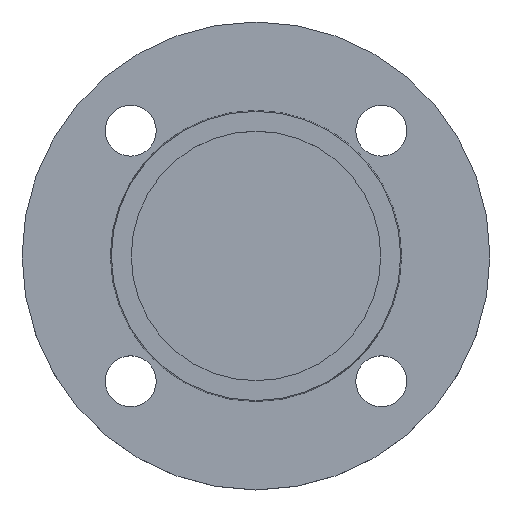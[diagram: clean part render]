
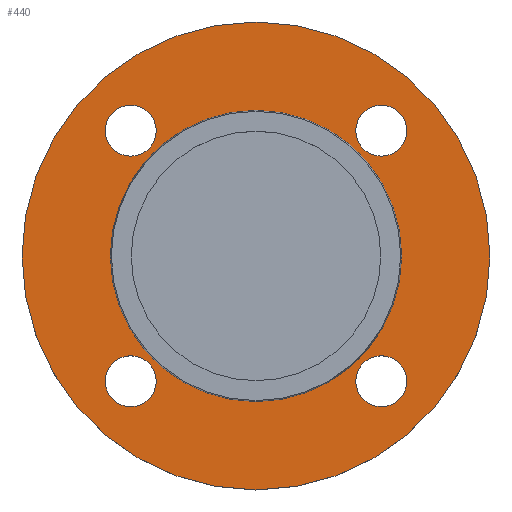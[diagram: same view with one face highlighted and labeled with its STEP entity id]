
A CAD part, top view. The second image highlights one B-rep face of the part: STEP entity #440.
In plain terms, the highlighted planar face has unit normal (0, 0, 1).
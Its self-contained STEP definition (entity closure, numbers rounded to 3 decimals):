
#5 = FACE_BOUND ( 'NONE', #10, .T. ) ;
#9 = EDGE_LOOP ( 'NONE', ( #136, #140 ) ) ;
#10 = EDGE_LOOP ( 'NONE', ( #141, #153 ) ) ;
#11 = CIRCLE ( 'NONE', #44, 82.5 ) ;
#14 = EDGE_LOOP ( 'NONE', ( #155, #160 ) ) ;
#17 = EDGE_LOOP ( 'NONE', ( #159, #270 ) ) ;
#19 = DIRECTION ( 'NONE',  ( 1., 0., 0. ) ) ;
#25 = DIRECTION ( 'NONE',  ( 0., 0., 1. ) ) ;
#33 = CIRCLE ( 'NONE', #578, 9. ) ;
#37 = EDGE_LOOP ( 'NONE', ( #131, #134 ) ) ;
#41 = VERTEX_POINT ( 'NONE', #532 ) ;
#44 = AXIS2_PLACEMENT_3D ( 'NONE', #525, #524, #523 ) ;
#56 = CARTESIAN_POINT ( 'NONE',  ( -35.194, -44.194, -2. ) ) ;
#86 = CARTESIAN_POINT ( 'NONE',  ( -53.194, 44.194, -2. ) ) ;
#88 = CARTESIAN_POINT ( 'NONE',  ( -82.5, 0., -2. ) ) ;
#89 = CARTESIAN_POINT ( 'NONE',  ( 0., 0., -2. ) ) ;
#90 = DIRECTION ( 'NONE',  ( 0., 0., -1. ) ) ;
#91 = DIRECTION ( 'NONE',  ( -1., 0., 0. ) ) ;
#95 = EDGE_CURVE ( 'NONE', #247, #319, #11, .T. ) ;
#96 = AXIS2_PLACEMENT_3D ( 'NONE', #377, #378, #379 ) ;
#109 = AXIS2_PLACEMENT_3D ( 'NONE', #516, #514, #512 ) ;
#113 = CIRCLE ( 'NONE', #502, 9. ) ;
#114 = CIRCLE ( 'NONE', #116, 9. ) ;
#115 = EDGE_LOOP ( 'NONE', ( #163, #164 ) ) ;
#116 = AXIS2_PLACEMENT_3D ( 'NONE', #508, #507, #506 ) ;
#131 = ORIENTED_EDGE ( 'NONE', *, *, #196, .T. ) ;
#134 = ORIENTED_EDGE ( 'NONE', *, *, #427, .T. ) ;
#135 = CIRCLE ( 'NONE', #142, 9. ) ;
#136 = ORIENTED_EDGE ( 'NONE', *, *, #407, .T. ) ;
#140 = ORIENTED_EDGE ( 'NONE', *, *, #313, .T. ) ;
#141 = ORIENTED_EDGE ( 'NONE', *, *, #587, .T. ) ;
#142 = AXIS2_PLACEMENT_3D ( 'NONE', #496, #495, #494 ) ;
#144 = EDGE_CURVE ( 'NONE', #207, #557, #334, .T. ) ;
#146 = AXIS2_PLACEMENT_3D ( 'NONE', #414, #415, #417 ) ;
#153 = ORIENTED_EDGE ( 'NONE', *, *, #347, .T. ) ;
#155 = ORIENTED_EDGE ( 'NONE', *, *, #144, .T. ) ;
#159 = ORIENTED_EDGE ( 'NONE', *, *, #586, .T. ) ;
#160 = ORIENTED_EDGE ( 'NONE', *, *, #161, .T. ) ;
#161 = EDGE_CURVE ( 'NONE', #557, #207, #114, .T. ) ;
#163 = ORIENTED_EDGE ( 'NONE', *, *, #248, .F. ) ;
#164 = ORIENTED_EDGE ( 'NONE', *, *, #95, .F. ) ;
#169 = FACE_OUTER_BOUND ( 'NONE', #115, .T. ) ;
#176 = FACE_BOUND ( 'NONE', #14, .T. ) ;
#179 = CIRCLE ( 'NONE', #589, 51.353 ) ;
#180 = FACE_BOUND ( 'NONE', #17, .T. ) ;
#182 = CARTESIAN_POINT ( 'NONE',  ( -35.194, 44.194, -2. ) ) ;
#183 = CARTESIAN_POINT ( 'NONE',  ( 51.353, 0., -2. ) ) ;
#185 = CIRCLE ( 'NONE', #190, 82.5 ) ;
#186 = CARTESIAN_POINT ( 'NONE',  ( 35.194, -44.194, -2. ) ) ;
#190 = AXIS2_PLACEMENT_3D ( 'NONE', #89, #90, #91 ) ;
#193 = PLANE ( 'NONE',  #580 ) ;
#196 = EDGE_CURVE ( 'NONE', #307, #266, #135, .T. ) ;
#207 = VERTEX_POINT ( 'NONE', #483 ) ;
#220 = CARTESIAN_POINT ( 'NONE',  ( 0., 0., -2. ) ) ;
#222 = DIRECTION ( 'NONE',  ( 0., 0., -1. ) ) ;
#223 = VERTEX_POINT ( 'NONE', #56 ) ;
#225 = AXIS2_PLACEMENT_3D ( 'NONE', #220, #222, #228 ) ;
#228 = DIRECTION ( 'NONE',  ( -1., 0., 0. ) ) ;
#234 = CIRCLE ( 'NONE', #574, 9. ) ;
#236 = VERTEX_POINT ( 'NONE', #86 ) ;
#246 = CARTESIAN_POINT ( 'NONE',  ( 53.194, -44.194, -2. ) ) ;
#247 = VERTEX_POINT ( 'NONE', #88 ) ;
#248 = EDGE_CURVE ( 'NONE', #319, #247, #185, .T. ) ;
#261 = VERTEX_POINT ( 'NONE', #182 ) ;
#262 = CARTESIAN_POINT ( 'NONE',  ( 35.194, 44.194, -2. ) ) ;
#263 = VERTEX_POINT ( 'NONE', #183 ) ;
#266 = VERTEX_POINT ( 'NONE', #186 ) ;
#270 = ORIENTED_EDGE ( 'NONE', *, *, #510, .T. ) ;
#307 = VERTEX_POINT ( 'NONE', #246 ) ;
#308 = CARTESIAN_POINT ( 'NONE',  ( 0., 0., -2. ) ) ;
#309 = DIRECTION ( 'NONE',  ( 0., 0., -1. ) ) ;
#310 = DIRECTION ( 'NONE',  ( -1., 0., 0. ) ) ;
#311 = CARTESIAN_POINT ( 'NONE',  ( -44.194, 44.194, -2. ) ) ;
#313 = EDGE_CURVE ( 'NONE', #317, #223, #234, .T. ) ;
#314 = DIRECTION ( 'NONE',  ( 0., 0., -1. ) ) ;
#316 = DIRECTION ( 'NONE',  ( 1., 0., 0. ) ) ;
#317 = VERTEX_POINT ( 'NONE', #360 ) ;
#319 = VERTEX_POINT ( 'NONE', #363 ) ;
#334 = CIRCLE ( 'NONE', #109, 9. ) ;
#347 = EDGE_CURVE ( 'NONE', #236, #261, #592, .T. ) ;
#356 = CARTESIAN_POINT ( 'NONE',  ( -44.194, -44.194, -2. ) ) ;
#359 = DIRECTION ( 'NONE',  ( 1., 0., 0. ) ) ;
#360 = CARTESIAN_POINT ( 'NONE',  ( -53.194, -44.194, -2. ) ) ;
#363 = CARTESIAN_POINT ( 'NONE',  ( 82.5, 0., -2. ) ) ;
#366 = DIRECTION ( 'NONE',  ( 0., 0., -1. ) ) ;
#377 = CARTESIAN_POINT ( 'NONE',  ( -44.194, 44.194, -2. ) ) ;
#378 = DIRECTION ( 'NONE',  ( 0., 0., -1. ) ) ;
#379 = DIRECTION ( 'NONE',  ( 1., 0., 0. ) ) ;
#402 = CARTESIAN_POINT ( 'NONE',  ( -44.194, -44.194, -2. ) ) ;
#404 = DIRECTION ( 'NONE',  ( 0., 0., -1. ) ) ;
#405 = DIRECTION ( 'NONE',  ( 1., 0., 0. ) ) ;
#407 = EDGE_CURVE ( 'NONE', #223, #317, #33, .T. ) ;
#412 = CARTESIAN_POINT ( 'NONE',  ( 51.353, 0., -2. ) ) ;
#414 = CARTESIAN_POINT ( 'NONE',  ( 44.194, -44.194, -2. ) ) ;
#415 = DIRECTION ( 'NONE',  ( 0., 0., -1. ) ) ;
#417 = DIRECTION ( 'NONE',  ( 1., 0., 0. ) ) ;
#420 = FACE_BOUND ( 'NONE', #9, .T. ) ;
#427 = EDGE_CURVE ( 'NONE', #266, #307, #458, .T. ) ;
#440 = ADVANCED_FACE ( 'NONE', ( #462, #420, #5, #176, #180, #169 ), #193, .T. ) ;
#458 = CIRCLE ( 'NONE', #146, 9. ) ;
#462 = FACE_BOUND ( 'NONE', #37, .T. ) ;
#483 = CARTESIAN_POINT ( 'NONE',  ( 53.194, 44.194, -2. ) ) ;
#494 = DIRECTION ( 'NONE',  ( 1., 0., 0. ) ) ;
#495 = DIRECTION ( 'NONE',  ( 0., 0., -1. ) ) ;
#496 = CARTESIAN_POINT ( 'NONE',  ( 44.194, -44.194, -2. ) ) ;
#502 = AXIS2_PLACEMENT_3D ( 'NONE', #311, #314, #316 ) ;
#506 = DIRECTION ( 'NONE',  ( 1., 0., 0. ) ) ;
#507 = DIRECTION ( 'NONE',  ( 0., 0., -1. ) ) ;
#508 = CARTESIAN_POINT ( 'NONE',  ( 44.194, 44.194, -2. ) ) ;
#510 = EDGE_CURVE ( 'NONE', #263, #41, #513, .T. ) ;
#512 = DIRECTION ( 'NONE',  ( 1., 0., 0. ) ) ;
#513 = CIRCLE ( 'NONE', #225, 51.353 ) ;
#514 = DIRECTION ( 'NONE',  ( 0., 0., -1. ) ) ;
#516 = CARTESIAN_POINT ( 'NONE',  ( 44.194, 44.194, -2. ) ) ;
#523 = DIRECTION ( 'NONE',  ( -1., 0., 0. ) ) ;
#524 = DIRECTION ( 'NONE',  ( 0., 0., -1. ) ) ;
#525 = CARTESIAN_POINT ( 'NONE',  ( 0., 0., -2. ) ) ;
#532 = CARTESIAN_POINT ( 'NONE',  ( -51.353, 0., -2. ) ) ;
#557 = VERTEX_POINT ( 'NONE', #262 ) ;
#574 = AXIS2_PLACEMENT_3D ( 'NONE', #356, #366, #359 ) ;
#578 = AXIS2_PLACEMENT_3D ( 'NONE', #402, #404, #405 ) ;
#580 = AXIS2_PLACEMENT_3D ( 'NONE', #412, #25, #19 ) ;
#586 = EDGE_CURVE ( 'NONE', #41, #263, #179, .T. ) ;
#587 = EDGE_CURVE ( 'NONE', #261, #236, #113, .T. ) ;
#589 = AXIS2_PLACEMENT_3D ( 'NONE', #308, #309, #310 ) ;
#592 = CIRCLE ( 'NONE', #96, 9. ) ;
